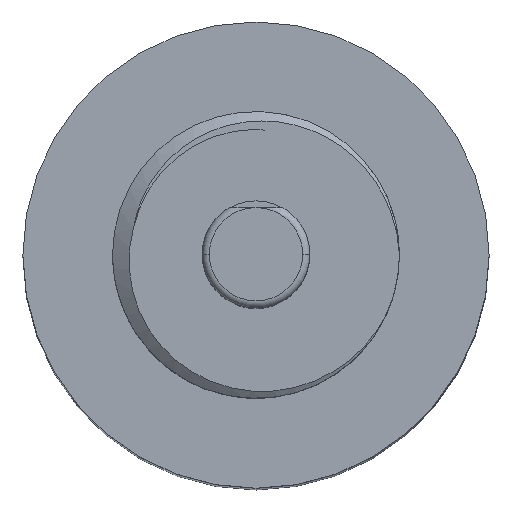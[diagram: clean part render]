
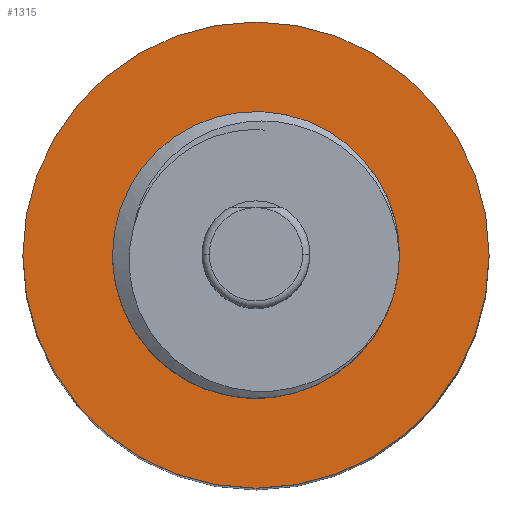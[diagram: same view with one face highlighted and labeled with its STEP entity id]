
A CAD part, top view. The second image highlights one B-rep face of the part: STEP entity #1315.
In plain terms, the highlighted planar face has unit normal (0, 0, 1).
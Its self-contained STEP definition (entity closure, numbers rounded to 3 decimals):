
#41 = DIRECTION ( 'NONE',  ( 0., 0., -1. ) ) ;
#86 = EDGE_LOOP ( 'NONE', ( #1550, #833 ) ) ;
#129 = CIRCLE ( 'NONE', #1493, 3.333 ) ;
#186 = DIRECTION ( 'NONE',  ( -1., 0., 0. ) ) ;
#230 = DIRECTION ( 'NONE',  ( -1., 0., 0. ) ) ;
#234 = VERTEX_POINT ( 'NONE', #1053 ) ;
#237 = CARTESIAN_POINT ( 'NONE',  ( 0., 0., -13.9 ) ) ;
#270 = VERTEX_POINT ( 'NONE', #1556 ) ;
#345 = CIRCLE ( 'NONE', #636, 6.5 ) ;
#376 = CARTESIAN_POINT ( 'NONE',  ( 6.5, 0., -13.9 ) ) ;
#426 = CARTESIAN_POINT ( 'NONE',  ( 0., -3.333, -13.9 ) ) ;
#427 = AXIS2_PLACEMENT_3D ( 'NONE', #480, #986, #230 ) ;
#480 = CARTESIAN_POINT ( 'NONE',  ( 0., 0., -13.9 ) ) ;
#507 = DIRECTION ( 'NONE',  ( -1., 0., 0. ) ) ;
#529 = DIRECTION ( 'NONE',  ( 0., 0., -1. ) ) ;
#531 = EDGE_CURVE ( 'NONE', #873, #234, #129, .T. ) ;
#556 = PLANE ( 'NONE',  #947 ) ;
#567 = EDGE_CURVE ( 'NONE', #270, #936, #345, .T. ) ;
#587 = EDGE_CURVE ( 'NONE', #936, #270, #857, .T. ) ;
#636 = AXIS2_PLACEMENT_3D ( 'NONE', #1023, #1533, #507 ) ;
#651 = DIRECTION ( 'NONE',  ( -1., 0., 0. ) ) ;
#771 = DIRECTION ( 'NONE',  ( -1., 0., 0. ) ) ;
#775 = AXIS2_PLACEMENT_3D ( 'NONE', #237, #1289, #651 ) ;
#816 = EDGE_LOOP ( 'NONE', ( #1304, #1167 ) ) ;
#833 = ORIENTED_EDGE ( 'NONE', *, *, #531, .T. ) ;
#857 = CIRCLE ( 'NONE', #775, 6.5 ) ;
#873 = VERTEX_POINT ( 'NONE', #992 ) ;
#877 = EDGE_CURVE ( 'NONE', #234, #873, #928, .T. ) ;
#892 = CARTESIAN_POINT ( 'NONE',  ( 0., 0., -13.9 ) ) ;
#928 = CIRCLE ( 'NONE', #427, 3.333 ) ;
#936 = VERTEX_POINT ( 'NONE', #376 ) ;
#941 = FACE_BOUND ( 'NONE', #86, .T. ) ;
#947 = AXIS2_PLACEMENT_3D ( 'NONE', #426, #41, #186 ) ;
#986 = DIRECTION ( 'NONE',  ( 0., 0., -1. ) ) ;
#992 = CARTESIAN_POINT ( 'NONE',  ( 3.333, 0., -13.9 ) ) ;
#1023 = CARTESIAN_POINT ( 'NONE',  ( 0., 0., -13.9 ) ) ;
#1053 = CARTESIAN_POINT ( 'NONE',  ( -3.333, 0., -13.9 ) ) ;
#1167 = ORIENTED_EDGE ( 'NONE', *, *, #587, .F. ) ;
#1289 = DIRECTION ( 'NONE',  ( 0., 0., -1. ) ) ;
#1304 = ORIENTED_EDGE ( 'NONE', *, *, #567, .F. ) ;
#1315 = ADVANCED_FACE ( 'NONE', ( #1585, #941 ), #556, .F. ) ;
#1493 = AXIS2_PLACEMENT_3D ( 'NONE', #892, #529, #771 ) ;
#1533 = DIRECTION ( 'NONE',  ( 0., 0., -1. ) ) ;
#1550 = ORIENTED_EDGE ( 'NONE', *, *, #877, .T. ) ;
#1556 = CARTESIAN_POINT ( 'NONE',  ( -6.5, 0., -13.9 ) ) ;
#1585 = FACE_OUTER_BOUND ( 'NONE', #816, .T. ) ;
